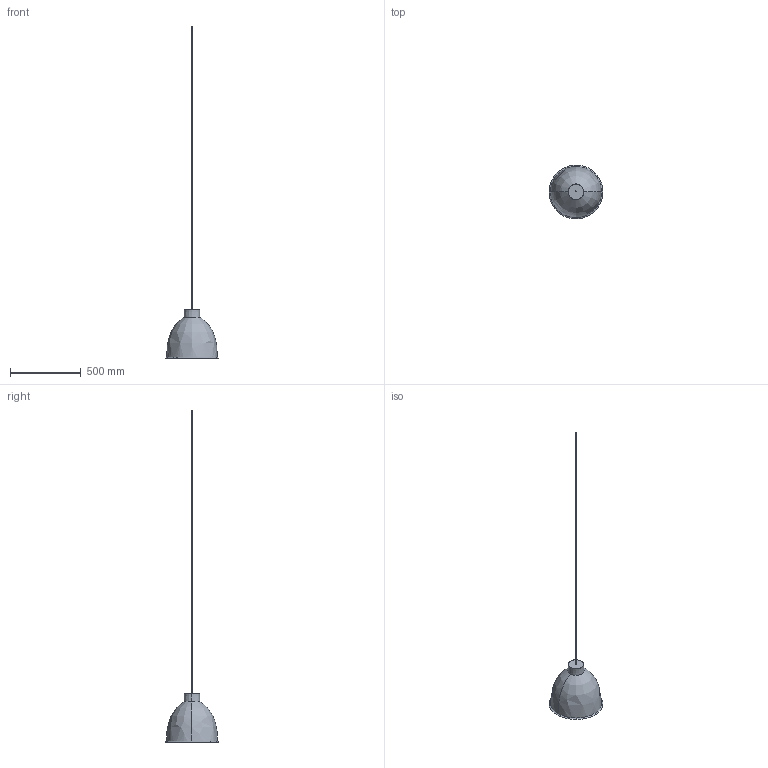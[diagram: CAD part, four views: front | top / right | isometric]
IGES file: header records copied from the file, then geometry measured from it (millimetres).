
Global section: file name: /Users/064_p/Desktop/3d data_02/ILKW_WORKSHOP38_Pendant_3D.igs; native system: Rhinoceros ( Jul  7 2025 ); preprocessor: Trout Lake IGES 012 Jul  7 2025; date: 260828.090252; units: millimetre
Bounding box: 380.85 x 380.27 x 2342.35 mm (x, y, z)
Surface area: 399676.2 mm2 (no closed solid volume)
Topology: 0 solids, 0 shells, 16 faces, 73 edges, 72 vertices
Faces by surface type: bspline 16
